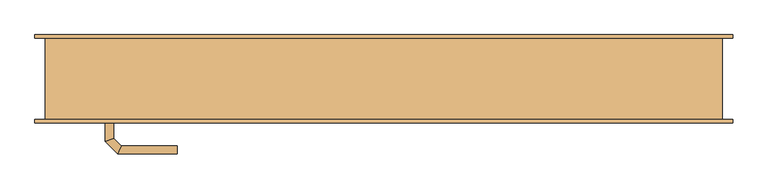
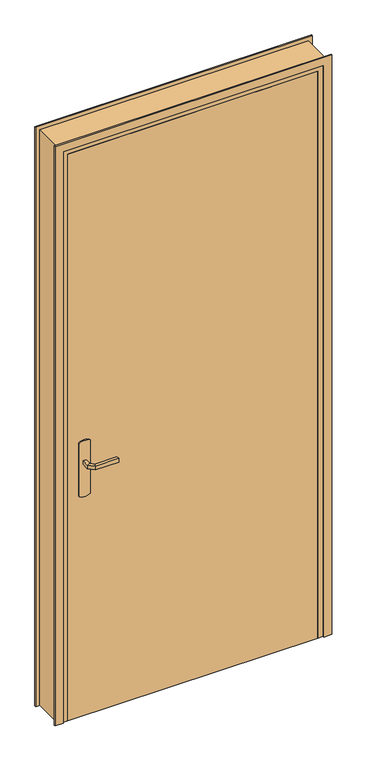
"""IFC4 building model written with IfcOpenShell, lengths in millimetres: door geometry, @_Int. Simple : @_PP (0.93m x 2.25)."""

from ifc_helpers import new_model, si_unit, point, frame, frame_2d, origin, origin_with_axes, place, context, project, spatial, polyline, circle_curve, ellipse_curve, trimmed, segment, composite_curve, outline, extrude, faceted_brep, source, transform, mapped, element, save
from ifc_brep_helpers import plane_surface, cylinder_surface, advanced_brep


def door_5aba9885(model_context):
    return source(origin(), model_context, "Body", "SolidModel", [
        extrude(outline(composite_curve([segment(trimmed(circle_curve(frame_2d((904.6410162, -440.0)), 40.0), [point((870.0, -460.0))], [point((870.0, -420.0))], False, "CARTESIAN"), True, "CONTINUOUS"), segment(polyline([(870.0, -420.0), (1080.0, -420.0)]), True, "CONTINUOUS"), segment(trimmed(circle_curve(frame_2d((1045.3589838, -440.0)), 40.0), [point((1080.0, -420.0))], [point((1080.0, -460.0))], False, "CARTESIAN"), True, "CONTINUOUS"), segment(polyline([(1080.0, -460.0), (870.0, -460.0)]), True, "CONTINUOUS")], self_intersect=False)), frame((0.0, -65.0, 0.0), z_axis=(0.0, 1.0, 0.0), x_axis=(0.0, 0.0, 1.0)), (0.0, 0.0, 1.0), 5.0),
        extrude(outline(composite_curve([segment(trimmed(circle_curve(frame_2d((1045.3589838, -440.0)), 40.0), [point((1080.0, -420.0))], [point((1080.0, -460.0))], False, "CARTESIAN"), True, "CONTINUOUS"), segment(polyline([(1080.0, -460.0), (870.0, -460.0)]), True, "CONTINUOUS"), segment(trimmed(circle_curve(frame_2d((904.6410162, -440.0)), 40.0), [point((870.0, -460.0))], [point((870.0, -420.0))], False, "CARTESIAN"), True, "CONTINUOUS"), segment(polyline([(870.0, -420.0), (1080.0, -420.0)]), True, "CONTINUOUS")], self_intersect=False)), frame((0.0, -20.0, 0.0), z_axis=(0.0, 1.0, 0.0), x_axis=(0.0, 0.0, 1.0)), (0.0, 0.0, 1.0), 5.0),
        advanced_brep(
        [(-446.0, -65.0, 1007.0), (-434.0, -65.0, 1007.0), (-434.0, -65.0, 993.0), (-446.0, -65.0, 993.0), (-446.0, -92.6509507, 1007.0), (-434.0, -87.680388, 1007.0), (-434.0, -87.680388, 993.0), (-446.0, -92.6509507, 993.0), (-427.62279, -111.0281607, 1007.0), (-422.6522273, -99.0281607, 1007.0), (-422.6522273, -99.0281607, 993.0), (-427.62279, -111.0281607, 993.0), (-339.9813594, -111.0281607, 1007.0), (-339.9813594, -111.0281607, 993.0), (-339.9813594, -99.0281607, 993.0), (-339.9813594, -99.0281607, 1007.0)],
        [
            (0, 1, circle_curve(frame((-440.0, -65.0, 986.9542278), z_axis=(0.0, 1.0, 0.0), x_axis=(1.0, 0.0, 0.0)), 20.9244589)),
            (1, 2),
            (2, 3, circle_curve(frame((-440.0, -65.0, 1013.0457722), z_axis=(0.0, 1.0, 0.0), x_axis=(1.0, 0.0, 0.0)), 20.9244589)),
            (3, 0),
            (0, 4),
            (4, 5, ellipse_curve(frame((-440.0, -90.1656693, 986.9542278), z_axis=(-0.3826834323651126, 0.9238795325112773, 0.0), x_axis=(0.9238795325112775, 0.38268343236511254, 0.0)), 22.6484711, 20.9244589)),
            (5, 1),
            (5, 6),
            (6, 2),
            (6, 7, ellipse_curve(frame((-440.0, -90.1656693, 1013.0457722), z_axis=(-0.3826834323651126, 0.9238795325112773, 0.0), x_axis=(0.9238795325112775, 0.38268343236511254, 0.0)), 22.6484711, 20.9244589)),
            (7, 3),
            (7, 4),
            (4, 8),
            (8, 9, ellipse_curve(frame((-425.1375086, -105.0281607, 986.9542278), z_axis=(-0.9238795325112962, 0.38268343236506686, 0.0), x_axis=(0.3826834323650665, 0.9238795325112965, 0.0)), 22.6484711, 20.9244589)),
            (9, 5),
            (9, 10),
            (10, 6),
            (10, 11, ellipse_curve(frame((-425.1375086, -105.0281607, 1013.0457722), z_axis=(-0.9238795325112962, 0.38268343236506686, 0.0), x_axis=(0.3826834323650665, 0.9238795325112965, 0.0)), 22.6484711, 20.9244589)),
            (11, 7),
            (11, 8),
            (12, 13),
            (13, 14, circle_curve(frame((-339.9813594, -105.0281607, 1013.0457722), z_axis=(1.0, 0.0, 0.0), x_axis=(0.0, 1.0, 0.0)), 20.9244589)),
            (14, 15),
            (15, 12, circle_curve(frame((-339.9813594, -105.0281607, 986.9542278), z_axis=(1.0, 0.0, 0.0), x_axis=(0.0, 1.0, 0.0)), 20.9244589)),
            (8, 12),
            (15, 9),
            (14, 10),
            (13, 11),
        ],
        [
            plane_surface(frame((-449.2195445, -65.0, 1000.0), z_axis=(0.0, 1.0, 0.0), x_axis=(0.0, 0.0, -1.0))),
            cylinder_surface(frame((-440.0, -65.0, 986.9542278), z_axis=(0.0, 1.0, 0.0), x_axis=(1.0, 0.0, 0.0)), 20.9244589),
            plane_surface(frame((-434.0, -65.0, 1007.0), z_axis=(1.0, 0.0, 0.0), x_axis=(0.0, -1.0, 0.0))),
            cylinder_surface(frame((-440.0, -65.0, 1013.0457722), z_axis=(0.0, 1.0, 0.0), x_axis=(1.0, 0.0, 0.0)), 20.9244589),
            plane_surface(frame((-446.0, -65.0, 993.0), z_axis=(-1.0, 0.0, 0.0), x_axis=(0.0, -1.0, 0.0))),
            cylinder_surface(frame((-440.0, -90.1656693, 986.9542278), z_axis=(-0.7071067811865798, 0.7071067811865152, 0.0), x_axis=(0.7071067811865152, 0.7071067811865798, 0.0)), 20.9244589),
            plane_surface(frame((-434.0, -87.680388, 1007.0), z_axis=(0.7071067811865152, 0.7071067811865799, 0.0), x_axis=(0.7071067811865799, -0.7071067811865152, 0.0))),
            cylinder_surface(frame((-440.0, -90.1656693, 1013.0457722), z_axis=(-0.7071067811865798, 0.7071067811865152, 0.0), x_axis=(0.7071067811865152, 0.7071067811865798, 0.0)), 20.9244589),
            plane_surface(frame((-446.0, -92.6509507, 993.0), z_axis=(-0.7071067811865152, -0.7071067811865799, 0.0), x_axis=(0.7071067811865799, -0.7071067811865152, 0.0))),
            plane_surface(frame((-339.9813594, -105.0281607, 990.7804555), z_axis=(1.0, 0.0, 0.0), x_axis=(0.0, 1.0, 0.0))),
            cylinder_surface(frame((-425.1375086, -105.0281607, 986.9542278), z_axis=(-1.0, 0.0, 0.0), x_axis=(0.0, 1.0, 0.0)), 20.9244589),
            plane_surface(frame((-422.6522273, -99.0281607, 1007.0), z_axis=(0.0, 1.0, 0.0), x_axis=(1.0, 0.0, 0.0))),
            cylinder_surface(frame((-425.1375086, -105.0281607, 1013.0457722), z_axis=(-1.0, 0.0, 0.0), x_axis=(0.0, 1.0, 0.0)), 20.9244589),
            plane_surface(frame((-427.62279, -111.0281607, 993.0), z_axis=(0.0, -1.0, 0.0), x_axis=(1.0, 0.0, 0.0))),
        ],
        [
            (0, [[1, 2, 3, 4]]),
            (1, [[-1, 5, 6, 7]]),
            (2, [[-2, -7, 8, 9]]),
            (3, [[-3, -9, 10, 11]]),
            (4, [[-4, -11, 12, -5]]),
            (5, [[-6, 13, 14, 15]]),
            (6, [[-8, -15, 16, 17]]),
            (7, [[-10, -17, 18, 19]]),
            (8, [[-12, -19, 20, -13]]),
            (9, [[21, 22, 23, 24]]),
            (10, [[-14, 25, -24, 26]]),
            (11, [[-16, -26, -23, 27]]),
            (12, [[-18, -27, -22, 28]]),
            (13, [[-20, -28, -21, -25]]),
        ],
    ),
        advanced_brep(
        [(-434.0, -15.0, 993.0), (-434.0, -15.0, 1007.0), (-446.0, -15.0, 1007.0), (-446.0, -15.0, 993.0), (-434.0, 7.4852045, 993.0), (-434.0, 7.4852045, 1007.0), (-446.0, 12.4557673, 1007.0), (-446.0, 12.4557673, 993.0), (-422.5147186, 18.9704859, 993.0), (-422.5147186, 18.9704859, 1007.0), (-427.4852814, 30.9704859, 1007.0), (-427.4852814, 30.9704859, 993.0), (-339.9542163, 18.9704859, 993.0), (-339.9542163, 30.9704859, 993.0), (-339.9542163, 30.9704859, 1007.0), (-339.9542163, 18.9704859, 1007.0)],
        [
            (0, 1),
            (1, 2, circle_curve(frame((-440.0, -15.0, 986.9542278), z_axis=(0.0, -1.0, 0.0), x_axis=(-1.0, 0.0, 0.0)), 20.9244589)),
            (2, 3),
            (3, 0, circle_curve(frame((-440.0, -15.0, 1013.0457722), z_axis=(0.0, -1.0, 0.0), x_axis=(-1.0, 0.0, 0.0)), 20.9244589)),
            (0, 4),
            (4, 5),
            (5, 1),
            (5, 6, ellipse_curve(frame((-440.0, 9.9704859, 986.9542278), z_axis=(-0.3826834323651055, -0.9238795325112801, 0.0), x_axis=(0.9238795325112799, -0.3826834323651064, 0.0)), 22.6484711, 20.9244589)),
            (6, 2),
            (6, 7),
            (7, 3),
            (7, 4, ellipse_curve(frame((-440.0, 9.9704859, 1013.0457722), z_axis=(-0.3826834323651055, -0.9238795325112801, 0.0), x_axis=(0.9238795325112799, -0.3826834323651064, 0.0)), 22.6484711, 20.9244589)),
            (4, 8),
            (8, 9),
            (9, 5),
            (9, 10, ellipse_curve(frame((-425.0, 24.9704859, 986.9542278), z_axis=(-0.9238795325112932, -0.382683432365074, 0.0), x_axis=(0.3826834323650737, -0.9238795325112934, 0.0)), 22.6484711, 20.9244589)),
            (10, 6),
            (10, 11),
            (11, 7),
            (11, 8, ellipse_curve(frame((-425.0, 24.9704859, 1013.0457722), z_axis=(-0.9238795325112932, -0.382683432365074, 0.0), x_axis=(0.3826834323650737, -0.9238795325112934, 0.0)), 22.6484711, 20.9244589)),
            (12, 13, circle_curve(frame((-339.9542163, 24.9704859, 1013.0457722), z_axis=(1.0, 0.0, 0.0), x_axis=(0.0, 1.0, 0.0)), 20.9244589)),
            (13, 14),
            (14, 15, circle_curve(frame((-339.9542163, 24.9704859, 986.9542278), z_axis=(1.0, 0.0, 0.0), x_axis=(0.0, 1.0, 0.0)), 20.9244589)),
            (15, 12),
            (8, 12),
            (15, 9),
            (14, 10),
            (13, 11),
        ],
        [
            plane_surface(frame((-449.2195445, -15.0, 1000.0), z_axis=(0.0, -1.0, 0.0), x_axis=(0.0, 0.0, 1.0))),
            plane_surface(frame((-434.0, -15.0, 993.0), z_axis=(1.0, 0.0, 0.0), x_axis=(0.0, 1.0, 0.0))),
            cylinder_surface(frame((-440.0, -15.0, 986.9542278), z_axis=(0.0, -1.0, 0.0), x_axis=(-1.0, 0.0, 0.0)), 20.9244589),
            plane_surface(frame((-446.0, -15.0, 1007.0), z_axis=(-1.0, 0.0, 0.0), x_axis=(0.0, 1.0, 0.0))),
            cylinder_surface(frame((-440.0, -15.0, 1013.0457722), z_axis=(0.0, -1.0, 0.0), x_axis=(-1.0, 0.0, 0.0)), 20.9244589),
            plane_surface(frame((-434.0, 7.4852045, 993.0), z_axis=(0.7071067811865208, -0.7071067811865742, 0.0), x_axis=(0.7071067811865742, 0.7071067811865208, 0.0))),
            cylinder_surface(frame((-440.0, 9.9704859, 986.9542278), z_axis=(-0.7071067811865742, -0.7071067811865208, 0.0), x_axis=(-0.7071067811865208, 0.7071067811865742, 0.0)), 20.9244589),
            plane_surface(frame((-446.0, 12.4557673, 1007.0), z_axis=(-0.7071067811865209, 0.7071067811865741, 0.0), x_axis=(0.7071067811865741, 0.7071067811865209, 0.0))),
            cylinder_surface(frame((-440.0, 9.9704859, 1013.0457722), z_axis=(-0.7071067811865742, -0.7071067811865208, 0.0), x_axis=(-0.7071067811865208, 0.7071067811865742, 0.0)), 20.9244589),
            plane_surface(frame((-339.9542163, 24.9704859, 990.7804555), z_axis=(1.0, 0.0, 0.0), x_axis=(0.0, 1.0, 0.0))),
            plane_surface(frame((-422.5147186, 18.9704859, 993.0), z_axis=(0.0, -1.0, 0.0), x_axis=(1.0, 0.0, 0.0))),
            cylinder_surface(frame((-425.0, 24.9704859, 986.9542278), z_axis=(-1.0, 0.0, 0.0), x_axis=(0.0, 1.0, 0.0)), 20.9244589),
            plane_surface(frame((-427.4852814, 30.9704859, 1007.0), z_axis=(0.0, 1.0, 0.0), x_axis=(1.0, 0.0, 0.0))),
            cylinder_surface(frame((-425.0, 24.9704859, 1013.0457722), z_axis=(-1.0, 0.0, 0.0), x_axis=(0.0, 1.0, 0.0)), 20.9244589),
        ],
        [
            (0, [[1, 2, 3, 4]]),
            (1, [[-1, 5, 6, 7]]),
            (2, [[-2, -7, 8, 9]]),
            (3, [[-3, -9, 10, 11]]),
            (4, [[-4, -11, 12, -5]]),
            (5, [[-6, 13, 14, 15]]),
            (6, [[-8, -15, 16, 17]]),
            (7, [[-10, -17, 18, 19]]),
            (8, [[-12, -19, 20, -13]]),
            (9, [[21, 22, 23, 24]]),
            (10, [[-14, 25, -24, 26]]),
            (11, [[-16, -26, -23, 27]]),
            (12, [[-18, -27, -22, 28]]),
            (13, [[-20, -28, -21, -25]]),
        ],
    ),
        extrude(outline(polyline([(-500.0, -20.0), (430.0, -20.0), (430.0, -60.0), (-500.0, -60.0), (-500.0, -20.0)])), origin_with_axes(), (0.0, 0.0, 1.0), 2230.0),
        faceted_brep([(-535.0, -60.0, 0.0), (-535.0, 60.0, 0.0), (-485.0, 60.0, 0.0), (-485.0, -20.0, 0.0), (-500.0, -20.0, 0.0), (-500.0, -60.0, 0.0), (-535.0, -60.0, 2265.0), (-535.0, 60.0, 2265.0), (465.0, 60.0, 2265.0), (465.0, 60.0, 0.0), (415.0, 60.0, 0.0), (415.0, 60.0, 2215.0), (-485.0, 60.0, 2215.0), (-485.0, -20.0, 2215.0), (415.0, -20.0, 2215.0), (415.0, -20.0, 0.0), (430.0, -20.0, 0.0), (430.0, -20.0, 2230.0), (-500.0, -20.0, 2230.0), (-500.0, -60.0, 2230.0), (430.0, -60.0, 2230.0), (430.0, -60.0, 0.0), (465.0, -60.0, 0.0), (465.0, -60.0, 2265.0)], [[[0, 1, 2, 3, 4, 5]], [[1, 0, 6, 7]], [[2, 1, 7, 8, 9, 10, 11, 12]], [[3, 2, 12, 13]], [[4, 3, 13, 14, 15, 16, 17, 18]], [[5, 4, 18, 19]], [[0, 5, 19, 20, 21, 22, 23, 6]], [[8, 23, 22, 9]], [[22, 21, 16, 15, 10, 9]], [[14, 11, 10, 15]], [[20, 17, 16, 21]], [[7, 6, 23, 8]], [[13, 12, 11, 14]], [[19, 18, 17, 20]]]),
        extrude(outline(polyline([(0.0, -550.0), (0.0, -520.0), (2250.0, -520.0), (2250.0, 450.0), (0.0, 450.0), (0.0, 480.0), (2280.0, 480.0), (2280.0, -550.0), (0.0, -550.0)])), frame((0.0, -65.0, 0.0), z_axis=(0.0, 1.0, 0.0), x_axis=(0.0, 0.0, 1.0)), (0.0, 0.0, 1.0), 5.0),
        extrude(outline(polyline([(0.0, -550.0), (0.0, -520.0), (2250.0, -520.0), (2250.0, 450.0), (0.0, 450.0), (0.0, 480.0), (2280.0, 480.0), (2280.0, -550.0), (0.0, -550.0)])), frame((0.0, 60.0, 0.0), z_axis=(0.0, 1.0, 0.0), x_axis=(0.0, 0.0, 1.0)), (0.0, 0.0, 1.0), 5.0),
    ])


if __name__ == "__main__":
    model = new_model("IFC4")
    model_context = context("Model", 3, world=origin())
    ifc_project = project(units=[si_unit("LENGTHUNIT", "METRE", prefix="MILLI")], contexts=[model_context])
    site = spatial("IfcSite", under=ifc_project)
    building = spatial("IfcBuilding", under=site)
    placement = place(None, origin())
    door_shape = door_5aba9885(model_context)
    element("IfcDoor", 1, ObjectType="@_Int. Simple : @_PP (0.93m x 2.25)", at=placement, inside=building, context=model_context, shape_type="MappedRepresentation", body=[
        mapped(door_shape, transform((0.0, 0.0, 0.0), x_axis=(1.0, 0.0, 0.0), y_axis=(0.0, 1.0, 0.0), z_axis=(0.0, 0.0, 1.0))),
    ])
    save(model, "model.ifc")
